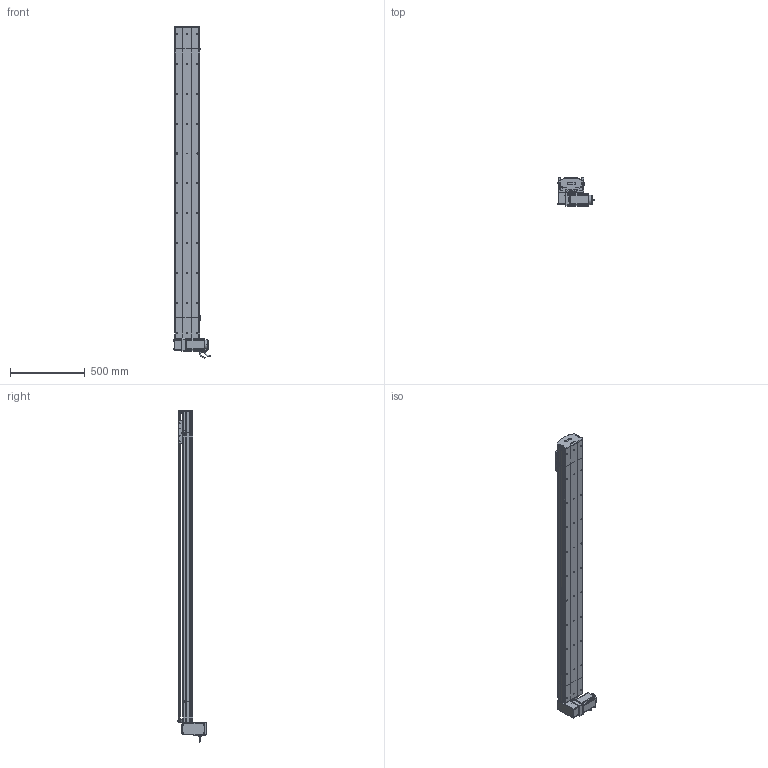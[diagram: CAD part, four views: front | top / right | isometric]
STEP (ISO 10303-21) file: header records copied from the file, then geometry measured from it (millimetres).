
FILE_DESCRIPTION (( 'STEP AP214' ), '1' );
FILE_NAME ('D17 TBH RU S1800.STEP', '2010-06-30T08:19:35', ( 'Christophe Gaillard' ), ( 'SGA' ), 'SwSTEP 2.0', 'SolidWorks 2010', '' );
FILE_SCHEMA (( 'AUTOMOTIVE_DESIGN' ));
Length unit declared in the file: millimetre
Products named in the file (40): chariot D17S_Default; couroie head D17_Default; vis M5 L5_Default; D17 TBH RU S1800; poulie head_Default; cache D17_Default; course 1800 D17B_Default; Arbre+rail head D17B; plaque de  bout head D17B RU_Default; Couroie+ rail D17 Course 1800 ; couvercle D17B head_Default; corp D17B 1800_Default; corpl head D17 _Default; Head RU D17B_Default; couvercle D17B course L1800_Default; Couroie tail D17B_Default; poulie tail_Default; plaque de  bout tail D17B_Default; vis M5 L25_Default; vis M5 L8 90°_Default; couvercle D17B_Default; Rail D17B; tete d''axe poulie D17B; avant 90BLDC125A-640; corpl tail D17B_Default; Moteur motionking 90BLDC125A-640; corps 90BLDC125A-640; Tail D17B_Default; Renvoi RU_Default; Conecteur2_Default; codeur 90BLDC125-640; cache arbre D17_Default; Vis M5 L16-2_Default; vis M5 L16_Default; Conecteur_Default; Chariot D17; Plaque racord D17_Default; vis M5 L70_Default; vis M5 L12_Default; guide D17
Assembly tree (70 placements, depth 4):
  D17 TBH RU S1800
    Head RU D17B_Default
      Moteur motionking 90BLDC125A-640
        Conecteur2_Default
        avant 90BLDC125A-640
        corps 90BLDC125A-640
        Conecteur_Default
        codeur 90BLDC125-640
      vis M5 L12_Default  x8
      Vis M5 L16-2_Default  x4
      vis M5 L5_Default  x4
      couroie head D17_Default
      vis M5 L25_Default  x2
      cache D17_Default  x2
      vis M5 L16_Default  x2
      Plaque racord D17_Default
      vis M5 L70_Default  x4
      poulie head_Default
      plaque de  bout head D17B RU_Default
      Renvoi RU_Default
      couvercle D17B head_Default
      corpl head D17 _Default
      Arbre+rail head D17B
      cache arbre D17_Default
    course 1800 D17B_Default
      couvercle D17B course L1800_Default
      Couroie+ rail D17 Course 1800 
      corp D17B 1800_Default
    Tail D17B_Default
      corpl tail D17B_Default
      vis M5 L12_Default  x4
      Couroie tail D17B_Default
      poulie tail_Default
      plaque de  bout tail D17B_Default
      tete d''axe poulie D17B
      vis M5 L25_Default  x2
      couvercle D17B_Default
      vis M5 L8 90°_Default  x2
      Rail D17B
    chariot D17S_Default
      vis M5 L12_Default  x4
      guide D17  x2
      Chariot D17
Bounding box: 245.2 x 188.65 x 2223.95 mm (x, y, z)
Volume: 13286371.9 mm3; surface area: 3799928.5 mm2
Topology: 94 solids, 94 shells, 2701 faces, 6821 edges, 4390 vertices
Faces by surface type: plane 1607, cylinder 781, bspline 136, cone 88, torus 85, sphere 4
Entity records: 84768 total; most frequent: CARTESIAN_POINT 25033, ORIENTED_EDGE 10414, DIRECTION 9884, EDGE_CURVE 5207, LINE 3454, VECTOR 3454, VERTEX_POINT 3414, AXIS2_PLACEMENT_3D 3215
